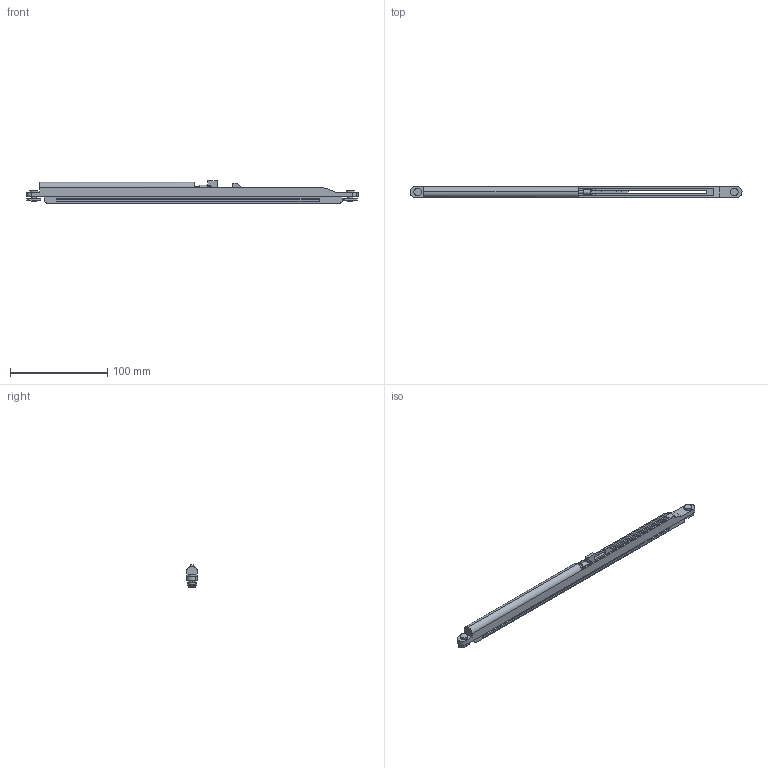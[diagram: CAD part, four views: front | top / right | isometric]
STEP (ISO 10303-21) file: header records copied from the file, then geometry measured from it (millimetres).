
FILE_DESCRIPTION(('STEP AP242'),'1');
FILE_NAME('OPO_51.047.46_volu_schn_3d.stp','2026-03-17T13:40:57',(' '),(' '),'Spatial InterOp 3D',' ',' ');
FILE_SCHEMA(('AP242_MANAGED_MODEL_BASED_3D_ENGINEERING_MIM_LF {1 0 10303 442 1 1 4}'));
Length unit declared in the file: millimetre
Products named in the file (1): 1
Bounding box: 340.98 x 11 x 23.2 mm (x, y, z)
Volume: 49190.8 mm3; surface area: 35056.1 mm2
Topology: 11 solids, 11 shells, 222 faces, 1125 edges, 1493 vertices
Faces by surface type: plane 129, cylinder 93
Entity records: 15671 total; most frequent: CARTESIAN_POINT 2032, DIRECTION 1820, ORIENTED_EDGE 1114, LINE 862, VECTOR 862, STYLED_ITEM 790, PRESENTATION_STYLE_ASSIGNMENT 790, COLOUR_RGB 790
